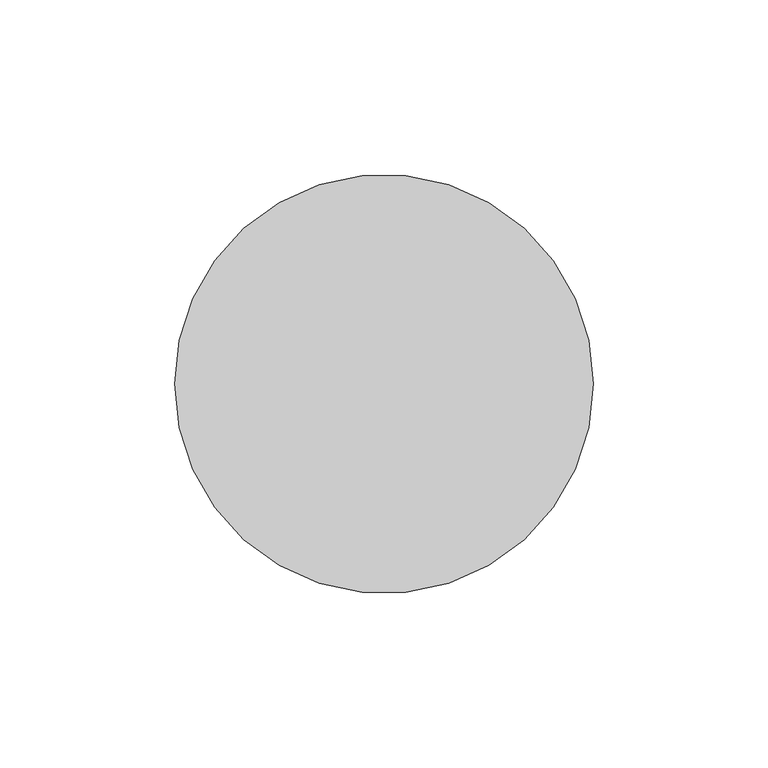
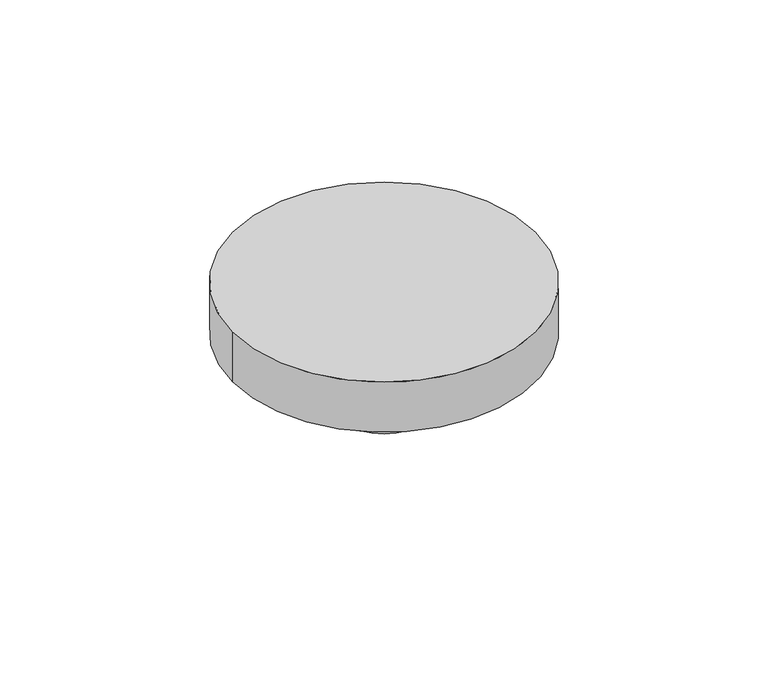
"""IFC4 building model written with IfcOpenShell, lengths in millimetres: switching device geometry, ZYR_06.01 Detector Sostre : 01 Detector Presencia 360º."""

from ifc_helpers import new_model, si_unit, point, frame, origin, origin_2d, place, context, project, spatial, circle_curve, ellipse_curve, trimmed, segment, composite_curve, outline, extrude, source, transform, mapped, element, save
from ifc_brep_helpers import plane_surface, revolved_surface, advanced_brep


def switching_device_fd5f7f5f(model_context):
    return source(origin(), model_context, "Body", "SolidModel", [
        extrude(outline(composite_curve([segment(trimmed(circle_curve(origin_2d(), 60.0), [point((-60.0, 0.0))], [point((60.0, 0.0))], False, "CARTESIAN"), True, "CONTINUOUS"), segment(trimmed(circle_curve(origin_2d(), 60.0), [point((60.0, 0.0))], [point((-60.0, 0.0))], False, "CARTESIAN"), True, "CONTINUOUS")], self_intersect=False)), frame((0.0, 0.0, -20.0), z_axis=(0.0, 0.0, 1.0), x_axis=(1.0, 0.0, 0.0)), (0.0, 0.0, 1.0), 21.0),
        advanced_brep(
        [(0.0, 0.0, -20.0), (-35.0, 0.0, -20.0), (35.0, 0.0, -20.0), (0.0, 0.0, -55.0)],
        [
            (0, 1),
            (1, 2, circle_curve(frame((0.0, 0.0, -20.0), z_axis=(0.0, 0.0, 1.0), x_axis=(-1.0, 0.0, 0.0)), 35.0)),
            (2, 0),
            (2, 1, circle_curve(frame((0.0, 0.0, -20.0), z_axis=(0.0, 0.0, 1.0), x_axis=(-1.0, 0.0, 0.0)), 35.0)),
            (1, 3, circle_curve(frame((0.0, 0.0, -20.0), z_axis=(0.0, -1.0, 0.0), x_axis=(1.0, 0.0, 0.0)), 35.0)),
            (3, 2, circle_curve(frame((0.0, 0.0, -20.0), z_axis=(0.0, -1.0, 0.0), x_axis=(-1.0, 0.0, 0.0)), 35.0)),
        ],
        [
            plane_surface(frame((0.0, 0.0, -20.0), z_axis=(0.0, 0.0, 1.0), x_axis=(-1.0, 0.0, 0.0))),
            revolved_surface(trimmed(ellipse_curve(frame((0.0, 0.0, -20.0), z_axis=(0.0, 1.0, 0.0), x_axis=(1.0, 0.0, 0.0)), 35.0, 35.0), [point((0.0, 0.0, -55.0))], [point((-35.0, 0.0, -20.0))], True, "CARTESIAN"), (0.0, 0.0, -20.0), (0.0, 0.0, 1.0)),
        ],
        [
            (0, [[1, 2, 3]]),
            (0, [[-3, 4, -1]]),
            (1, [[-2, 5, 6]]),
            (1, [[-4, -6, -5]]),
        ],
    ),
    ])


if __name__ == "__main__":
    model = new_model("IFC4")
    model_context = context("Model", 3, world=origin())
    ifc_project = project(units=[si_unit("LENGTHUNIT", "METRE", prefix="MILLI")], contexts=[model_context])
    site = spatial("IfcSite", under=ifc_project)
    building = spatial("IfcBuilding", under=site)
    placement = place(None, origin())
    switching_device_shape = switching_device_fd5f7f5f(model_context)
    element("IfcSwitchingDevice", 1, ObjectType="ZYR_06.01 Detector Sostre : 01 Detector Presencia 360º", at=placement, inside=building, context=model_context, shape_type="MappedRepresentation", body=[
        mapped(switching_device_shape, transform((0.0, 0.0, 0.0), x_axis=(1.0, 0.0, 0.0), y_axis=(0.0, 1.0, 0.0), z_axis=(0.0, 0.0, 1.0))),
    ])
    save(model, "model.ifc")
